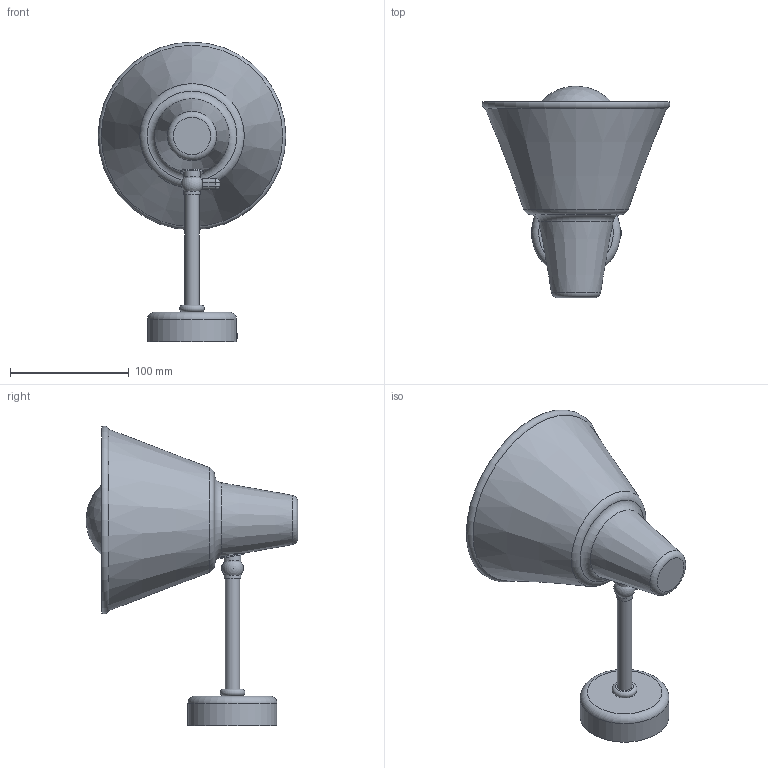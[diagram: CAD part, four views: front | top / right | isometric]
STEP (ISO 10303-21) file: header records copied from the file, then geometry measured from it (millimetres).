
FILE_DESCRIPTION(/* description */ (''),/* implementation_level */ '2;1');
FILE_NAME(/* name */ 'C:\Users\Dominika\Desktop\Modele CZARNY\T30\KINKIET T30.stp',/* time_stamp */ '2019-12-05T20:19:25+01:00',/* author */ ('Dominika'),/* organization */ (''),/* preprocessor_version */ 'ST-DEVELOPER v17',/* originating_system */ 'Autodesk Inventor 2019',/* authorisation */ '');
FILE_SCHEMA (('AUTOMOTIVE_DESIGN { 1 0 10303 214 3 1 1 }'));
Length unit declared in the file: millimetre
Products named in the file (11): KINKIET T30; T14 mocowanie do ściany; T30 klosz; T30 rurka; T30 tulejka III; sruba; kulka; T30 tulejka; T30 tulejka II; T30 motyl II; klosz II
Assembly tree (10 placements, depth 2):
  KINKIET T30
    T14 mocowanie do ściany
    T30 klosz
    T30 rurka
    T30 tulejka III
    sruba
    kulka
    T30 tulejka
    T30 tulejka II
    T30 motyl II
    klosz II
Bounding box: 158.17 x 178.21 x 252.63 mm (x, y, z)
Volume: 390057.7 mm3; surface area: 160823.6 mm2
Topology: 10 solids, 10 shells, 78 faces, 177 edges, 119 vertices
Faces by surface type: plane 31, cylinder 25, torus 12, sphere 6, cone 4
Full cylindrical faces by diameter (mm): 2.5 x1, 4 x2, 7.5 x1, 8 x2, 10 x1, 12 x4, 12.857 x1, 14 x1, 20 x1, 37.982 x1, 71 x1, 75 x1
Entity records: 2834 total; most frequent: CARTESIAN_POINT 531, DIRECTION 469, ORIENTED_EDGE 346, AXIS2_PLACEMENT_3D 209, EDGE_CURVE 173, VERTEX_POINT 119, CIRCLE 106, EDGE_LOOP 94
